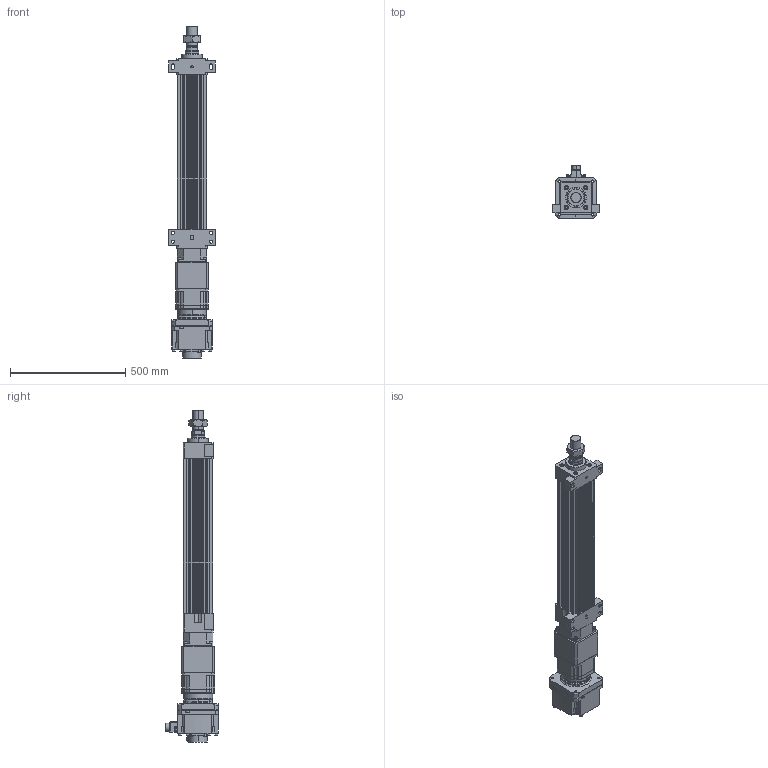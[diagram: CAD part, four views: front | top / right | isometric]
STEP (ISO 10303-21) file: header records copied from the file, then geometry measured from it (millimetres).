
FILE_DESCRIPTION (( 'STEP AP203' ), '1' );
FILE_NAME ('HES130FS(HS)-S450-W020G00-M-FFB.STEP', '2023-01-30T12:37:41', ( 'tms' ), ( '' ), 'SwSTEP 2.0', 'SolidWorks 2013', '' );
FILE_SCHEMA (( 'CONFIG_CONTROL_DESIGN' ));
Length unit declared in the file: millimetre
Products named in the file (9): AB1421; M45X1.5P; HES130 ROD M ST450; AB142-003[HG-SR352]; HES130-S450-G142-FFB; P1301500001; HES130FS(HS)-S450-W020G00-M-FFB; P0403500801; HG-SR202
Assembly tree (8 placements, depth 3):
  HES130FS(HS)-S450-W020G00-M-FFB
    HES130-S450-G142-FFB
    HES130 ROD M ST450
    M45X1.5P
    AB142-003[HG-SR352]
      AB1421
      P1301500001
      P0403500801
    HG-SR202
Bounding box: 200 x 228.85 x 1437.5 mm (x, y, z)
Volume: 12818516.6 mm3; surface area: 1651602.3 mm2
Topology: 4 solids, 22 shells, 1518 faces, 3922 edges, 2545 vertices
Faces by surface type: cylinder 676, plane 600, cone 160, bspline 76, torus 6
Entity records: 55270 total; most frequent: CARTESIAN_POINT 16778, DIRECTION 8032, ORIENTED_EDGE 7750, EDGE_CURVE 3897, AXIS2_PLACEMENT_3D 3016, VERTEX_POINT 2545, LINE 2000, VECTOR 2000
